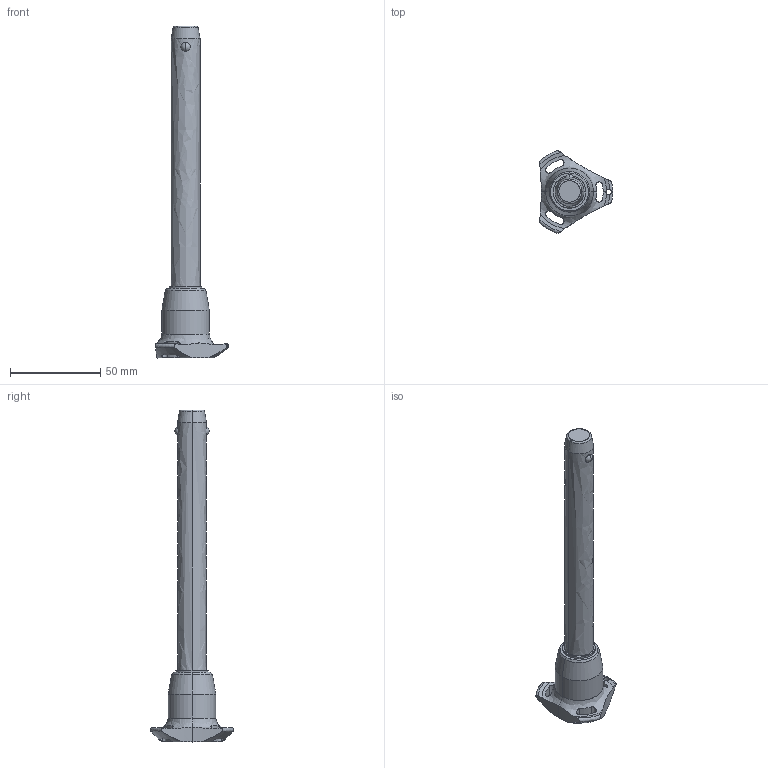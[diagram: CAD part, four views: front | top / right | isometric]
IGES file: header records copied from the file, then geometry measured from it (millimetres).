
Start section: SolidWorks IGES file using analytic representation for surfaces
Global section: file name: C:\Users\ianosborn\Desktop\QR1734_v2\QR1734_v2_20251113_IGES\QR1734.M16-130-S.igs; native system: SolidWorks 2019; preprocessor: SolidWorks 2019; author: IanOsborn; date: 251112.143852; units: millimetre
Bounding box: 40.5 x 45.88 x 183.7 mm (x, y, z)
Surface area: 13193 mm2 (no closed solid volume)
Topology: 0 solids, 0 shells, 65 faces, 1379 edges, 1375 vertices
Faces by surface type: revolution 50, bspline 15
